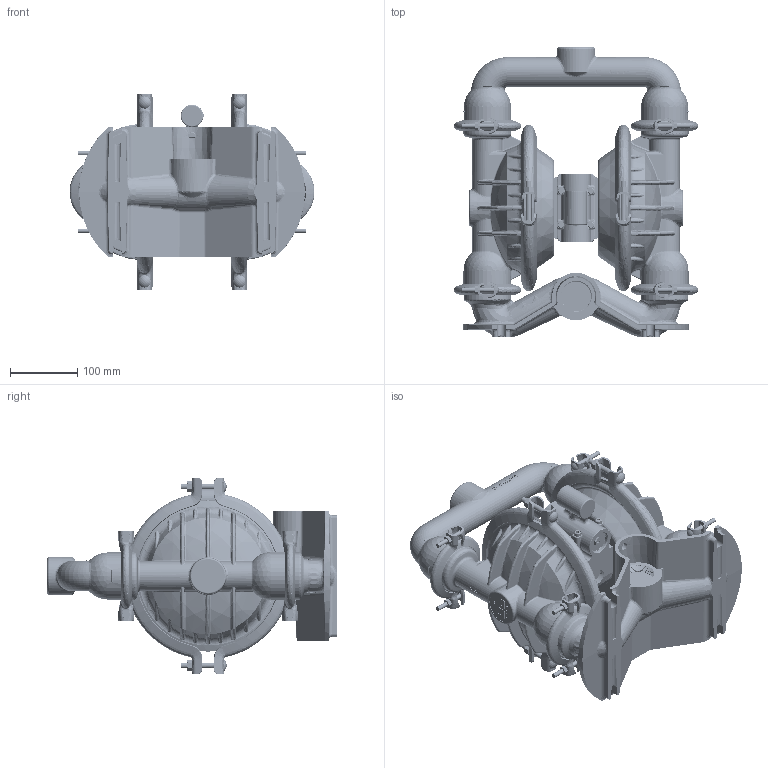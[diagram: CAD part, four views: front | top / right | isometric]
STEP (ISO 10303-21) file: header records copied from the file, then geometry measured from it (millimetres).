
FILE_DESCRIPTION (( 'STEP AP203' ), '1' );
FILE_NAME ('T4_AAMAB_TOP.STEP', '2022-06-21T06:02:01', ( '' ), ( '' ), 'SwSTEP 2.0', 'SolidWorks 2019', '' );
FILE_SCHEMA (( 'CONFIG_CONTROL_DESIGN' ));
Products named in the file (1): T4_AAMAB_TOP
Bounding box: 364.87 x 431.93 x 292.1 mm (x, y, z)
Volume: 8896971.2 mm3; surface area: 892459.3 mm2
Topology: 1 solids, 1 shells, 6775 faces, 18077 edges, 11430 vertices
Faces by surface type: plane 3825, bspline 1539, cylinder 749, cone 373, torus 213, sphere 76
Entity records: 478406 total; most frequent: CARTESIAN_POINT 328157, ORIENTED_EDGE 36122, DIRECTION 23939, EDGE_CURVE 18061, VERTEX_POINT 11422, AXIS2_PLACEMENT_3D 8021, VECTOR 7897, LINE 7897
